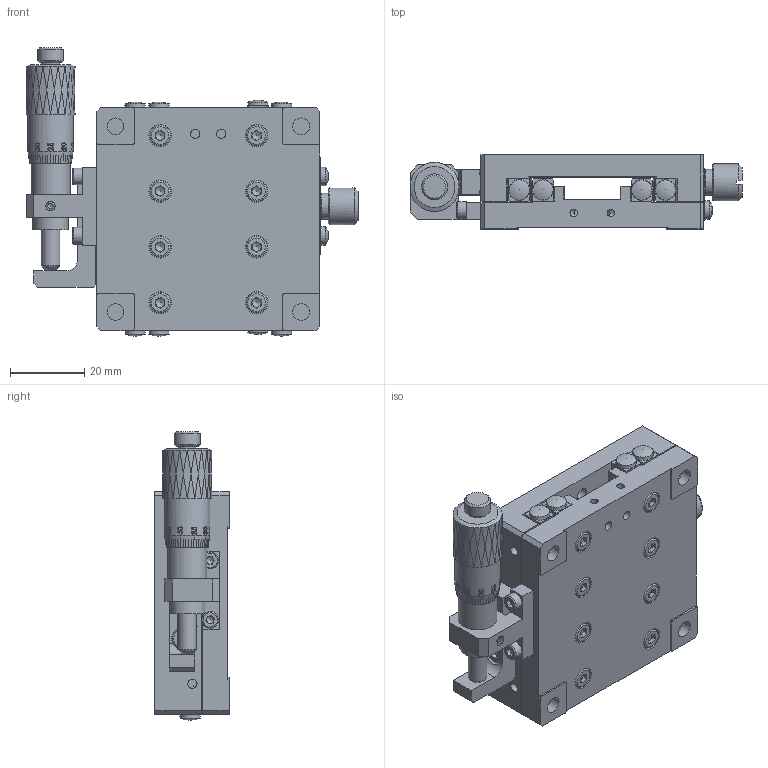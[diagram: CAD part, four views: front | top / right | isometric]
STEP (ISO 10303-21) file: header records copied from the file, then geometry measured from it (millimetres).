
FILE_DESCRIPTION (( 'STEP AP203' ), '1' );
FILE_NAME ('BPEA60.STEP', '2024-07-27T00:35:17', ( 'Windows User' ), ( 'P R C' ), 'SwSTEP 2.0', 'SolidWorks 2024', '' );
FILE_SCHEMA (( 'CONFIG_CONTROL_DESIGN' ));
Products named in the file (1): BPEA60
Bounding box: 89.4 x 20 x 77.6 mm (x, y, z)
Volume: 66833.2 mm3; surface area: 43252.2 mm2
Topology: 37 solids, 37 shells, 1870 faces, 4643 edges, 2980 vertices
Faces by surface type: plane 859, bspline 403, cylinder 339, cone 246, torus 20, sphere 3
Full cylindrical faces by diameter (mm): 2 x22, 2.05 x12, 2.5 x19, 2.55 x16, 2.95 x9, 3 x21, 3.1 x2, 3.2 x2, 3.3 x9, 3.4 x16, 4.4 x16, 4.5 x6, 5 x5, 5.5 x18, 5.8 x2, 6 x16, 7 x2, 8 x4, 8.5 x1, 9.5 x2, 10 x1, 10.5 x1, 12.2 x1
Entity records: 84564 total; most frequent: CARTESIAN_POINT 45948, ORIENTED_EDGE 8268, DIRECTION 6359, EDGE_CURVE 4134, VERTEX_POINT 2855, EDGE_LOOP 2591, AXIS2_PLACEMENT_3D 2342, FACE_OUTER_BOUND 2078
